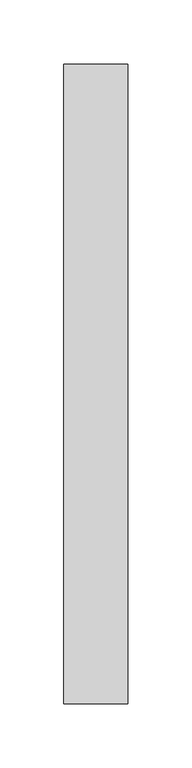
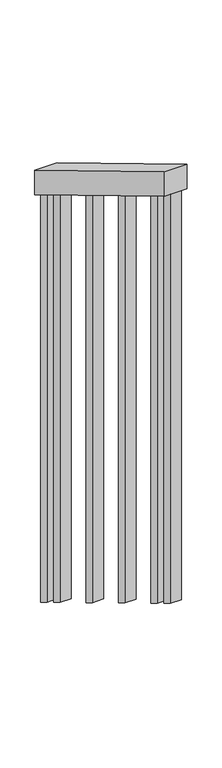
"""IFC4 building model written with IfcOpenShell, lengths in millimetres: railing geometry, 1100 мм."""

from ifc_helpers import new_model, si_unit, frame, origin, place, context, project, spatial, polyline, outline, extrude, source, transform, mapped, element, save


def railing_ca177ed8(model_context):
    return source(origin(), model_context, "Body", "SweptSolid", [
        extrude(outline(polyline([(4949.6773594, 800.0), (4949.6773594, 741.6904811), (4449.6773594, 1041.6904811), (4449.6773594, 1100.0), (4949.6773594, 800.0)])), frame((-708.8836511, 0.0, 0.0), z_axis=(1.0, 0.0, 0.0), x_axis=(0.0, 1.0, 0.0)), (0.0, 0.0, 1.0), 50.0),
        extrude(outline(polyline([(4524.6773594, 36.715214), (4499.6773594, 51.715214), (4499.6773594, 1011.6904811), (4524.6773594, 996.6904811), (4524.6773594, 36.715214)])), frame((-696.3836511, 0.0, 0.0), z_axis=(1.0, 0.0, 0.0), x_axis=(0.0, 1.0, 0.0)), (0.0, 0.0, 1.0), 25.0),
        extrude(outline(polyline([(4649.6773594, -38.284786), (4624.6773594, -23.284786), (4624.6773594, 936.6904811), (4649.6773594, 921.6904811), (4649.6773594, -38.284786)])), frame((-696.3836511, 0.0, 0.0), z_axis=(1.0, 0.0, 0.0), x_axis=(0.0, 1.0, 0.0)), (0.0, 0.0, 1.0), 25.0),
        extrude(outline(polyline([(4774.6773594, -113.284786), (4749.6773594, -98.284786), (4749.6773594, 861.6904811), (4774.6773594, 846.6904811), (4774.6773594, -113.284786)])), frame((-696.3836511, 0.0, 0.0), z_axis=(1.0, 0.0, 0.0), x_axis=(0.0, 1.0, 0.0)), (0.0, 0.0, 1.0), 25.0),
        extrude(outline(polyline([(4899.6773594, -188.284786), (4874.6773594, -173.284786), (4874.6773594, 786.6904811), (4899.6773594, 771.6904811), (4899.6773594, -188.284786)])), frame((-696.3836511, 0.0, 0.0), z_axis=(1.0, 0.0, 0.0), x_axis=(0.0, 1.0, 0.0)), (0.0, 0.0, 1.0), 25.0),
        extrude(outline(polyline([(4474.6773594, 66.715214), (4449.6773594, 81.715214), (4449.6773594, 1041.6904811), (4474.6773594, 1026.6904811), (4474.6773594, 66.715214)])), frame((-696.3836511, 0.0, 0.0), z_axis=(1.0, 0.0, 0.0), x_axis=(0.0, 1.0, 0.0)), (0.0, 0.0, 1.0), 25.0),
        extrude(outline(polyline([(4949.6773594, -218.284786), (4924.6773594, -203.284786), (4924.6773594, 756.6904811), (4949.6773594, 741.6904811), (4949.6773594, -218.284786)])), frame((-696.3836511, 0.0, 0.0), z_axis=(1.0, 0.0, 0.0), x_axis=(0.0, 1.0, 0.0)), (0.0, 0.0, 1.0), 25.0),
    ])


if __name__ == "__main__":
    model = new_model("IFC4")
    model_context = context("Model", 3, world=origin())
    ifc_project = project(units=[si_unit("LENGTHUNIT", "METRE", prefix="MILLI")], contexts=[model_context])
    site = spatial("IfcSite", under=ifc_project)
    building = spatial("IfcBuilding", under=site)
    placement = place(None, origin())
    railing_shape = railing_ca177ed8(model_context)
    element("IfcRailing", 1, ObjectType="1100 мм", at=placement, inside=building, context=model_context, shape_type="MappedRepresentation", body=[
        mapped(railing_shape, transform((0.0, 0.0, 0.0), x_axis=(1.0, 0.0, 0.0), y_axis=(0.0, 1.0, 0.0), z_axis=(0.0, 0.0, 1.0))),
    ])
    save(model, "model.ifc")
